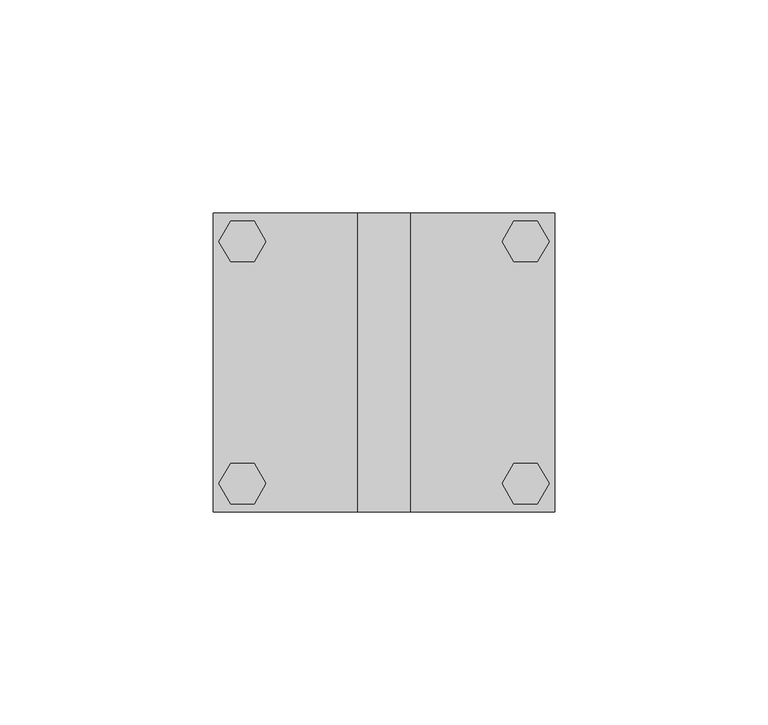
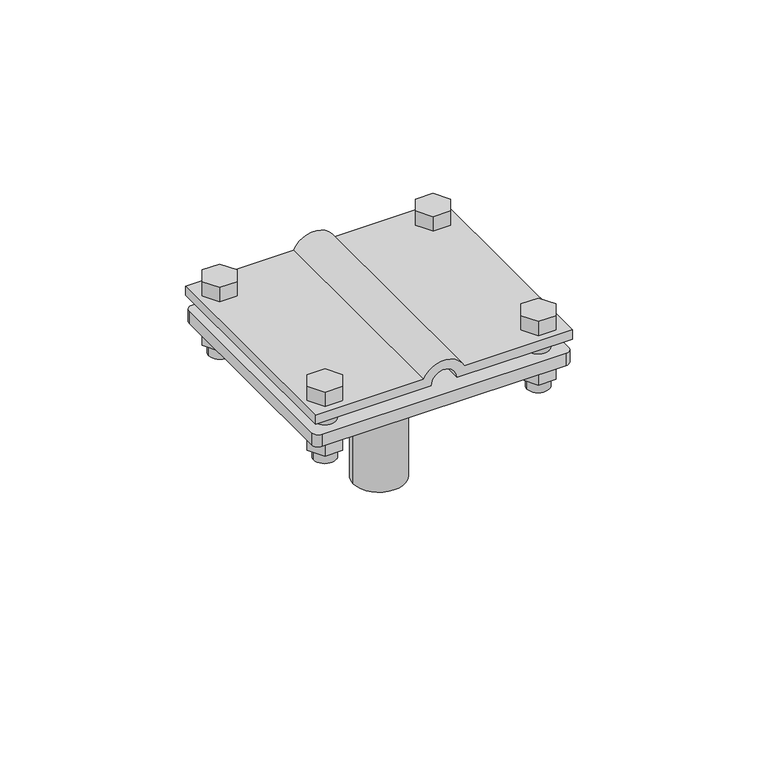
"""IFC4 building model written with IfcOpenShell, lengths in millimetres: proxy geometry, КНС_СоединительВертикальногоЗаземлителя_DKC : NE1302_Горячеоцинкованная сталь."""

from ifc_helpers import new_model, si_unit, point, frame, frame_2d, origin, origin_with_axes, origin_2d, place, context, project, spatial, polyline, circle_curve, trimmed, segment, composite_curve, outline, extrude, source, transform, mapped, element, save


def security_devices_fc7a873b(model_context):
    return source(origin(), model_context, "Body", "SweptSolid", [
        extrude(outline(composite_curve([segment(trimmed(circle_curve(origin_2d(), 8.0), [point((-8.0, 0.0))], [point((8.0, 0.0))], False, "CARTESIAN"), True, "CONTINUOUS"), segment(trimmed(circle_curve(origin_2d(), 8.0), [point((8.0, 0.0))], [point((-8.0, 0.0))], False, "CARTESIAN"), True, "CONTINUOUS")], self_intersect=False)), origin_with_axes(), (0.0, 0.0, 1.0), 44.0),
        extrude(outline(composite_curve([segment(polyline([(55.0, -40.0), (52.0, -40.0), (52.0, -4.0)]), True, "CONTINUOUS"), segment(trimmed(circle_curve(frame_2d((52.0, 0.0)), 4.0), [point((52.0, -4.0))], [point((52.0, 4.0))], True, "CARTESIAN"), True, "CONTINUOUS"), segment(polyline([(52.0, 4.0), (52.0, 40.0), (55.0, 40.0), (55.0, 6.3245553)]), True, "CONTINUOUS"), segment(trimmed(circle_curve(frame_2d((52.0, 0.0)), 7.0), [point((55.0, 6.3245553))], [point((55.0, -6.3245553))], False, "CARTESIAN"), True, "CONTINUOUS"), segment(polyline([(55.0, -6.3245553), (55.0, -40.0)]), True, "CONTINUOUS")], self_intersect=False)), frame((0.0, -35.0, 0.0), z_axis=(0.0, 1.0, 0.0), x_axis=(0.0, 0.0, 1.0)), (0.0, 0.0, 1.0), 70.0),
        extrude(outline(composite_curve([segment(trimmed(circle_curve(frame_2d((-33.2121057, 28.28125)), 3.4209609), [point((-36.6330666, 28.28125))], [point((-29.7911448, 28.28125))], False, "CARTESIAN"), True, "CONTINUOUS"), segment(trimmed(circle_curve(frame_2d((-33.2121057, 28.28125)), 3.4209609), [point((-29.7911448, 28.28125))], [point((-36.6330666, 28.28125))], False, "CARTESIAN"), True, "CONTINUOUS")], self_intersect=False)), frame((0.0, 0.0, 35.0), z_axis=(0.0, 0.0, 1.0), x_axis=(1.0, 0.0, 0.0)), (0.0, 0.0, 1.0), 20.0),
        extrude(outline(composite_curve([segment(trimmed(circle_curve(frame_2d((33.2121057, 28.28125)), 3.4209609), [point((29.7911448, 28.28125))], [point((36.6330666, 28.28125))], False, "CARTESIAN"), True, "CONTINUOUS"), segment(trimmed(circle_curve(frame_2d((33.2121057, 28.28125)), 3.4209609), [point((36.6330666, 28.28125))], [point((29.7911448, 28.28125))], False, "CARTESIAN"), True, "CONTINUOUS")], self_intersect=False)), frame((0.0, 0.0, 35.0), z_axis=(0.0, 0.0, 1.0), x_axis=(1.0, 0.0, 0.0)), (0.0, 0.0, 1.0), 20.0),
        extrude(outline(composite_curve([segment(trimmed(circle_curve(frame_2d((-33.2121057, -28.28125)), 3.4209609), [point((-36.6330666, -28.28125))], [point((-29.7911448, -28.28125))], False, "CARTESIAN"), True, "CONTINUOUS"), segment(trimmed(circle_curve(frame_2d((-33.2121057, -28.28125)), 3.4209609), [point((-29.7911448, -28.28125))], [point((-36.6330666, -28.28125))], False, "CARTESIAN"), True, "CONTINUOUS")], self_intersect=False)), frame((0.0, 0.0, 35.0), z_axis=(0.0, 0.0, 1.0), x_axis=(1.0, 0.0, 0.0)), (0.0, 0.0, 1.0), 20.0),
        extrude(outline(composite_curve([segment(trimmed(circle_curve(frame_2d((33.2121057, -28.28125)), 3.4209609), [point((29.7911448, -28.28125))], [point((36.6330666, -28.28125))], False, "CARTESIAN"), True, "CONTINUOUS"), segment(trimmed(circle_curve(frame_2d((33.2121057, -28.28125)), 3.4209609), [point((36.6330666, -28.28125))], [point((29.7911448, -28.28125))], False, "CARTESIAN"), True, "CONTINUOUS")], self_intersect=False)), frame((0.0, 0.0, 35.0), z_axis=(0.0, 0.0, 1.0), x_axis=(1.0, 0.0, 0.0)), (0.0, 0.0, 1.0), 20.0),
        extrude(outline(polyline([(-38.6996224, 28.3883083), (-35.955864, 33.1406371), (-30.4683473, 33.1406371), (-27.724589, 28.3883083), (-30.4683473, 23.6359794), (-35.955864, 23.6359794), (-38.6996224, 28.3883083)])), frame((0.0, 0.0, 39.0), z_axis=(0.0, 0.0, 1.0), x_axis=(1.0, 0.0, 0.0)), (0.0, 0.0, 1.0), 5.0),
        extrude(outline(polyline([(38.6996224, 28.3883083), (35.955864, 23.6359794), (30.4683473, 23.6359794), (27.724589, 28.3883083), (30.4683473, 33.1406371), (35.955864, 33.1406371), (38.6996224, 28.3883083)])), frame((0.0, 0.0, 39.0), z_axis=(0.0, 0.0, 1.0), x_axis=(1.0, 0.0, 0.0)), (0.0, 0.0, 1.0), 5.0),
        extrude(outline(polyline([(-38.6996224, -28.3883083), (-35.955864, -23.6359794), (-30.4683473, -23.6359794), (-27.724589, -28.3883083), (-30.4683473, -33.1406371), (-35.955864, -33.1406371), (-38.6996224, -28.3883083)])), frame((0.0, 0.0, 39.0), z_axis=(0.0, 0.0, 1.0), x_axis=(1.0, 0.0, 0.0)), (0.0, 0.0, 1.0), 5.0),
        extrude(outline(polyline([(38.6996224, -28.3883083), (35.955864, -33.1406371), (30.4683473, -33.1406371), (27.724589, -28.3883083), (30.4683473, -23.6359794), (35.955864, -23.6359794), (38.6996224, -28.3883083)])), frame((0.0, 0.0, 39.0), z_axis=(0.0, 0.0, 1.0), x_axis=(1.0, 0.0, 0.0)), (0.0, 0.0, 1.0), 5.0),
        extrude(outline(polyline([(-38.6996224, 28.3883083), (-35.955864, 33.1406371), (-30.4683473, 33.1406371), (-27.724589, 28.3883083), (-30.4683473, 23.6359794), (-35.955864, 23.6359794), (-38.6996224, 28.3883083)])), frame((0.0, 0.0, 55.0), z_axis=(0.0, 0.0, 1.0), x_axis=(1.0, 0.0, 0.0)), (0.0, 0.0, 1.0), 5.0),
        extrude(outline(polyline([(38.6996224, 28.3883083), (35.955864, 23.6359794), (30.4683473, 23.6359794), (27.724589, 28.3883083), (30.4683473, 33.1406371), (35.955864, 33.1406371), (38.6996224, 28.3883083)])), frame((0.0, 0.0, 55.0), z_axis=(0.0, 0.0, 1.0), x_axis=(1.0, 0.0, 0.0)), (0.0, 0.0, 1.0), 5.0),
        extrude(outline(polyline([(-38.6996224, -28.3883083), (-35.955864, -23.6359794), (-30.4683473, -23.6359794), (-27.724589, -28.3883083), (-30.4683473, -33.1406371), (-35.955864, -33.1406371), (-38.6996224, -28.3883083)])), frame((0.0, 0.0, 55.0), z_axis=(0.0, 0.0, 1.0), x_axis=(1.0, 0.0, 0.0)), (0.0, 0.0, 1.0), 5.0),
        extrude(outline(polyline([(38.6996224, -28.3883083), (35.955864, -33.1406371), (30.4683473, -33.1406371), (27.724589, -28.3883083), (30.4683473, -23.6359794), (35.955864, -23.6359794), (38.6996224, -28.3883083)])), frame((0.0, 0.0, 55.0), z_axis=(0.0, 0.0, 1.0), x_axis=(1.0, 0.0, 0.0)), (0.0, 0.0, 1.0), 5.0),
        extrude(outline(composite_curve([segment(trimmed(circle_curve(frame_2d((38.0, 33.0)), 2.0), [point((38.0, 35.0))], [point((40.0, 33.0))], False, "CARTESIAN"), True, "CONTINUOUS"), segment(polyline([(40.0, 33.0), (40.0, -33.0)]), True, "CONTINUOUS"), segment(trimmed(circle_curve(frame_2d((38.0, -33.0)), 2.0), [point((40.0, -33.0))], [point((38.0, -35.0))], False, "CARTESIAN"), True, "CONTINUOUS"), segment(polyline([(38.0, -35.0), (-38.0, -35.0)]), True, "CONTINUOUS"), segment(trimmed(circle_curve(frame_2d((-38.0, -33.0)), 2.0), [point((-38.0, -35.0))], [point((-40.0, -33.0))], False, "CARTESIAN"), True, "CONTINUOUS"), segment(polyline([(-40.0, -33.0), (-40.0, 33.0)]), True, "CONTINUOUS"), segment(trimmed(circle_curve(frame_2d((-38.0, 33.0)), 2.0), [point((-40.0, 33.0))], [point((-38.0, 35.0))], False, "CARTESIAN"), True, "CONTINUOUS"), segment(polyline([(-38.0, 35.0), (38.0, 35.0)]), True, "CONTINUOUS")], self_intersect=False)), frame((0.0, 0.0, 44.0), z_axis=(0.0, 0.0, 1.0), x_axis=(1.0, 0.0, 0.0)), (0.0, 0.0, 1.0), 4.0),
    ])


if __name__ == "__main__":
    model = new_model("IFC4")
    model_context = context("Model", 3, world=origin())
    ifc_project = project(units=[si_unit("LENGTHUNIT", "METRE", prefix="MILLI")], contexts=[model_context])
    site = spatial("IfcSite", under=ifc_project)
    building = spatial("IfcBuilding", under=site)
    placement = place(None, origin())
    security_devices_shape = security_devices_fc7a873b(model_context)
    element("IfcBuildingElementProxy", 1, Name="КНС_СоединительВертикальногоЗаземлителя_DKC : NE1302_Горячеоцинкованная сталь", ObjectType="КНС_СоединительВертикальногоЗаземлителя_DKC : NE1302_Горячеоцинкованная сталь", at=placement, inside=building, context=model_context, shape_type="MappedRepresentation", body=[
        mapped(security_devices_shape, transform((0.0, 0.0, 0.0), x_axis=(1.0, 0.0, 0.0), y_axis=(0.0, 1.0, 0.0), z_axis=(0.0, 0.0, 1.0))),
    ])
    save(model, "model.ifc")
